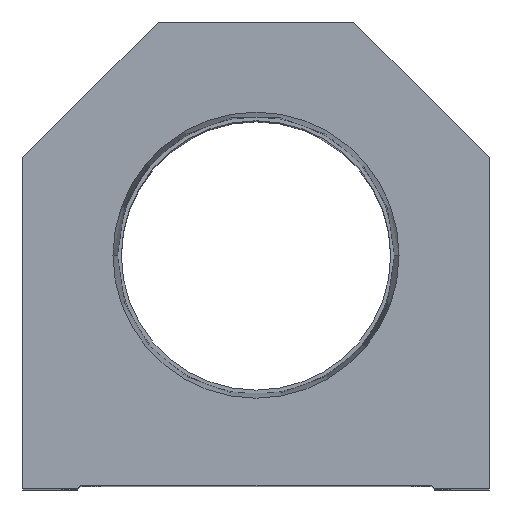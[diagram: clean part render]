
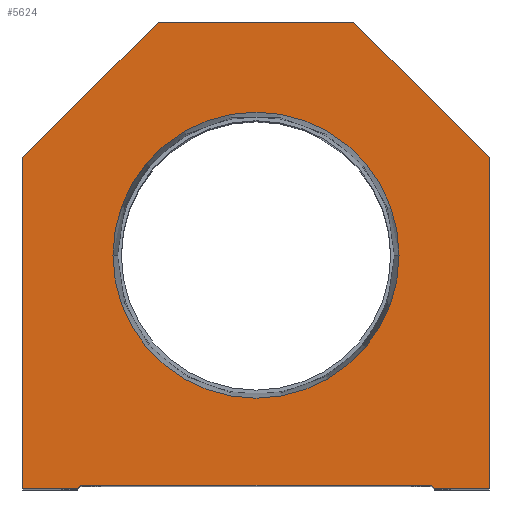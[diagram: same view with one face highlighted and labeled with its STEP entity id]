
A CAD part, top view. The second image highlights one B-rep face of the part: STEP entity #5624.
In plain terms, the highlighted planar face has unit normal (0, 0, 1).
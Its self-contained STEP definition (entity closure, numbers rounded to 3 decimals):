
#46 = CARTESIAN_POINT ( 'NONE',  ( 23.374, 38.1, 0. ) ) ;
#98 = VERTEX_POINT ( 'NONE', #9410 ) ;
#651 = EDGE_CURVE ( 'NONE', #13607, #15535, #4536, .T. ) ;
#688 = AXIS2_PLACEMENT_3D ( 'NONE', #13611, #6131, #11045 ) ;
#1109 = CARTESIAN_POINT ( 'NONE',  ( -38.1, 54.1, 0. ) ) ;
#1165 = ORIENTED_EDGE ( 'NONE', *, *, #5940, .F. ) ;
#1236 = LINE ( 'NONE', #7279, #8743 ) ;
#1494 = LINE ( 'NONE', #14897, #13321 ) ;
#1504 = DIRECTION ( 'NONE',  ( 1., 0., 0. ) ) ;
#1529 = ORIENTED_EDGE ( 'NONE', *, *, #1542, .T. ) ;
#1542 = EDGE_CURVE ( 'NONE', #15535, #8697, #6715, .T. ) ;
#1606 = DIRECTION ( 'NONE',  ( 0.707, -0.707, 0. ) ) ;
#1732 = VECTOR ( 'NONE', #4144, 1000. ) ;
#1737 = VERTEX_POINT ( 'NONE', #46 ) ;
#1812 = FACE_OUTER_BOUND ( 'NONE', #7290, .T. ) ;
#2268 = AXIS2_PLACEMENT_3D ( 'NONE', #6327, #7379, #1504 ) ;
#2282 = DIRECTION ( 'NONE',  ( -0.707, -0.707, 0. ) ) ;
#2350 = EDGE_CURVE ( 'NONE', #15789, #3186, #4314, .T. ) ;
#2723 = VERTEX_POINT ( 'NONE', #5090 ) ;
#3186 = VERTEX_POINT ( 'NONE', #9425 ) ;
#3518 = ORIENTED_EDGE ( 'NONE', *, *, #7727, .T. ) ;
#3677 = EDGE_CURVE ( 'NONE', #8697, #13543, #3838, .T. ) ;
#3838 = LINE ( 'NONE', #8769, #11996 ) ;
#4118 = ORIENTED_EDGE ( 'NONE', *, *, #10782, .T. ) ;
#4144 = DIRECTION ( 'NONE',  ( 1., 0., 0. ) ) ;
#4273 = EDGE_CURVE ( 'NONE', #6742, #10899, #13334, .T. ) ;
#4314 = LINE ( 'NONE', #9244, #14786 ) ;
#4536 = LINE ( 'NONE', #4862, #14379 ) ;
#4573 = VECTOR ( 'NONE', #13586, 1000. ) ;
#4722 = CARTESIAN_POINT ( 'NONE',  ( -28.6, 0.5, 0. ) ) ;
#4823 = CARTESIAN_POINT ( 'NONE',  ( 28.6, 0.5, 0. ) ) ;
#4862 = CARTESIAN_POINT ( 'NONE',  ( -38.1, 0., 0. ) ) ;
#5090 = CARTESIAN_POINT ( 'NONE',  ( 38.1, 0., 0. ) ) ;
#5170 = CARTESIAN_POINT ( 'NONE',  ( -16., 76.2, 0. ) ) ;
#5624 = ADVANCED_FACE ( 'NONE', ( #14957, #1812 ), #6703, .T. ) ;
#5763 = EDGE_LOOP ( 'NONE', ( #5825, #1165 ) ) ;
#5825 = ORIENTED_EDGE ( 'NONE', *, *, #6266, .F. ) ;
#5857 = CARTESIAN_POINT ( 'NONE',  ( -28.6, 0.5, 0. ) ) ;
#5940 = EDGE_CURVE ( 'NONE', #98, #1737, #15831, .T. ) ;
#6131 = DIRECTION ( 'NONE',  ( 0., 0., 1. ) ) ;
#6266 = EDGE_CURVE ( 'NONE', #1737, #98, #9193, .T. ) ;
#6327 = CARTESIAN_POINT ( 'NONE',  ( 0., 38.1, 0. ) ) ;
#6703 = PLANE ( 'NONE',  #15559 ) ;
#6715 = LINE ( 'NONE', #10410, #1732 ) ;
#6742 = VERTEX_POINT ( 'NONE', #8923 ) ;
#7279 = CARTESIAN_POINT ( 'NONE',  ( 38.1, 0., 0. ) ) ;
#7290 = EDGE_LOOP ( 'NONE', ( #1529, #12106, #10487, #14141, #8831, #4118, #9161, #8445, #3518, #7498 ) ) ;
#7379 = DIRECTION ( 'NONE',  ( 0., 0., 1. ) ) ;
#7498 = ORIENTED_EDGE ( 'NONE', *, *, #651, .T. ) ;
#7631 = LINE ( 'NONE', #8605, #4573 ) ;
#7727 = EDGE_CURVE ( 'NONE', #10899, #13607, #10938, .T. ) ;
#7959 = CARTESIAN_POINT ( 'NONE',  ( 38.1, 54.1, 0. ) ) ;
#8376 = DIRECTION ( 'NONE',  ( 1., 0., 0. ) ) ;
#8445 = ORIENTED_EDGE ( 'NONE', *, *, #4273, .T. ) ;
#8605 = CARTESIAN_POINT ( 'NONE',  ( 38.1, 54.1, 0. ) ) ;
#8697 = VERTEX_POINT ( 'NONE', #11079 ) ;
#8743 = VECTOR ( 'NONE', #9847, 1000. ) ;
#8769 = CARTESIAN_POINT ( 'NONE',  ( -14.55, 14.55, 0. ) ) ;
#8810 = DIRECTION ( 'NONE',  ( 1., 0., 0. ) ) ;
#8831 = ORIENTED_EDGE ( 'NONE', *, *, #9656, .T. ) ;
#8923 = CARTESIAN_POINT ( 'NONE',  ( 16., 76.2, 0. ) ) ;
#9161 = ORIENTED_EDGE ( 'NONE', *, *, #9506, .T. ) ;
#9193 = CIRCLE ( 'NONE', #2268, 23.374 ) ;
#9229 = VECTOR ( 'NONE', #8376, 1000. ) ;
#9244 = CARTESIAN_POINT ( 'NONE',  ( 14.55, 14.55, 0. ) ) ;
#9410 = CARTESIAN_POINT ( 'NONE',  ( -23.374, 38.1, 0. ) ) ;
#9425 = CARTESIAN_POINT ( 'NONE',  ( 29.1, 0., 0. ) ) ;
#9506 = EDGE_CURVE ( 'NONE', #14014, #6742, #7631, .T. ) ;
#9656 = EDGE_CURVE ( 'NONE', #3186, #2723, #1494, .T. ) ;
#9784 = CARTESIAN_POINT ( 'NONE',  ( -38.1, 0., 0. ) ) ;
#9794 = DIRECTION ( 'NONE',  ( 0., -1., 0. ) ) ;
#9847 = DIRECTION ( 'NONE',  ( 0., 1., 0. ) ) ;
#10106 = EDGE_CURVE ( 'NONE', #13543, #15789, #13115, .T. ) ;
#10242 = VECTOR ( 'NONE', #2282, 1000. ) ;
#10410 = CARTESIAN_POINT ( 'NONE',  ( -28.6, 0., 0. ) ) ;
#10487 = ORIENTED_EDGE ( 'NONE', *, *, #10106, .T. ) ;
#10782 = EDGE_CURVE ( 'NONE', #2723, #14014, #1236, .T. ) ;
#10899 = VERTEX_POINT ( 'NONE', #5170 ) ;
#10938 = LINE ( 'NONE', #13126, #10242 ) ;
#11045 = DIRECTION ( 'NONE',  ( 1., 0., 0. ) ) ;
#11079 = CARTESIAN_POINT ( 'NONE',  ( -29.1, 0., 0. ) ) ;
#11619 = DIRECTION ( 'NONE',  ( 0., 0., 1. ) ) ;
#11996 = VECTOR ( 'NONE', #13653, 1000. ) ;
#12106 = ORIENTED_EDGE ( 'NONE', *, *, #3677, .T. ) ;
#12202 = CARTESIAN_POINT ( 'NONE',  ( 16., 76.2, 0. ) ) ;
#12505 = CARTESIAN_POINT ( 'NONE',  ( 0., 0., 0. ) ) ;
#13022 = VECTOR ( 'NONE', #15885, 1000. ) ;
#13115 = LINE ( 'NONE', #4722, #9229 ) ;
#13126 = CARTESIAN_POINT ( 'NONE',  ( -38.1, 54.1, 0. ) ) ;
#13321 = VECTOR ( 'NONE', #14732, 1000. ) ;
#13334 = LINE ( 'NONE', #12202, #13022 ) ;
#13543 = VERTEX_POINT ( 'NONE', #5857 ) ;
#13586 = DIRECTION ( 'NONE',  ( -0.707, 0.707, 0. ) ) ;
#13607 = VERTEX_POINT ( 'NONE', #1109 ) ;
#13611 = CARTESIAN_POINT ( 'NONE',  ( 0., 38.1, 0. ) ) ;
#13653 = DIRECTION ( 'NONE',  ( 0.707, 0.707, 0. ) ) ;
#14014 = VERTEX_POINT ( 'NONE', #7959 ) ;
#14141 = ORIENTED_EDGE ( 'NONE', *, *, #2350, .T. ) ;
#14379 = VECTOR ( 'NONE', #9794, 1000. ) ;
#14732 = DIRECTION ( 'NONE',  ( 1., 0., 0. ) ) ;
#14786 = VECTOR ( 'NONE', #1606, 1000. ) ;
#14897 = CARTESIAN_POINT ( 'NONE',  ( 28.6, 0., 0. ) ) ;
#14957 = FACE_BOUND ( 'NONE', #5763, .T. ) ;
#15535 = VERTEX_POINT ( 'NONE', #9784 ) ;
#15559 = AXIS2_PLACEMENT_3D ( 'NONE', #12505, #11619, #8810 ) ;
#15789 = VERTEX_POINT ( 'NONE', #4823 ) ;
#15831 = CIRCLE ( 'NONE', #688, 23.374 ) ;
#15885 = DIRECTION ( 'NONE',  ( -1., 0., 0. ) ) ;
